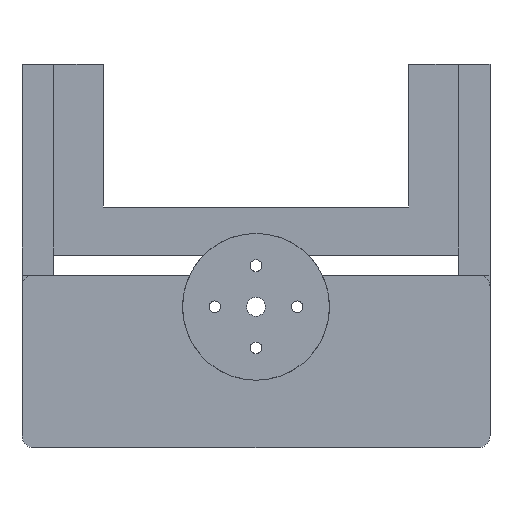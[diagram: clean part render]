
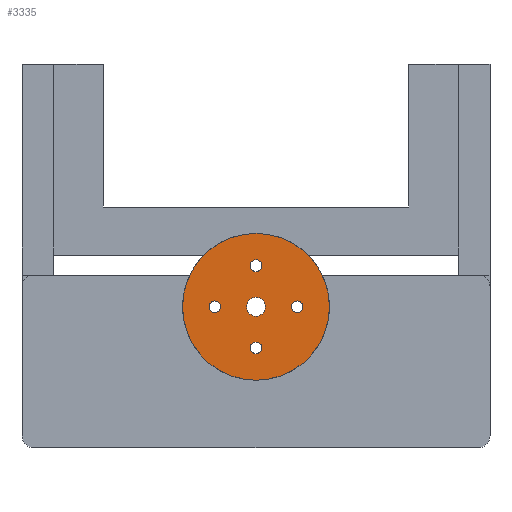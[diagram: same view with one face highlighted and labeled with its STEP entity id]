
A CAD part, front view. The second image highlights one B-rep face of the part: STEP entity #3335.
In plain terms, the highlighted planar face has unit normal (0, -1, 0).
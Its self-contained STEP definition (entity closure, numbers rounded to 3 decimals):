
#435 = CYLINDRICAL_SURFACE('',#436,12.5);
#436 = AXIS2_PLACEMENT_3D('',#437,#438,#439);
#437 = CARTESIAN_POINT('',(0.,0.,0.));
#438 = DIRECTION('',(0.,1.,0.));
#439 = DIRECTION('',(0.,-0.,1.));
#834 = CYLINDRICAL_SURFACE('',#835,1.);
#835 = AXIS2_PLACEMENT_3D('',#836,#837,#838);
#836 = CARTESIAN_POINT('',(-7.,-0.5,0.));
#837 = DIRECTION('',(0.,1.,0.));
#838 = DIRECTION('',(0.,-0.,1.));
#865 = CYLINDRICAL_SURFACE('',#866,1.);
#866 = AXIS2_PLACEMENT_3D('',#867,#868,#869);
#867 = CARTESIAN_POINT('',(0.,-0.5,-7.));
#868 = DIRECTION('',(0.,1.,0.));
#869 = DIRECTION('',(0.,-0.,1.));
#896 = CYLINDRICAL_SURFACE('',#897,1.6);
#897 = AXIS2_PLACEMENT_3D('',#898,#899,#900);
#898 = CARTESIAN_POINT('',(0.,-0.5,0.));
#899 = DIRECTION('',(0.,1.,0.));
#900 = DIRECTION('',(0.,-0.,1.));
#927 = CYLINDRICAL_SURFACE('',#928,1.);
#928 = AXIS2_PLACEMENT_3D('',#929,#930,#931);
#929 = CARTESIAN_POINT('',(7.,-0.5,0.));
#930 = DIRECTION('',(0.,1.,0.));
#931 = DIRECTION('',(0.,-0.,1.));
#2202 = VERTEX_POINT('',#2203);
#2203 = CARTESIAN_POINT('',(0.,0.,12.5));
#2274 = EDGE_CURVE('',#2202,#2202,#2275,.T.);
#2275 = SURFACE_CURVE('',#2276,(#2281,#2288),.PCURVE_S1.);
#2276 = CIRCLE('',#2277,12.5);
#2277 = AXIS2_PLACEMENT_3D('',#2278,#2279,#2280);
#2278 = CARTESIAN_POINT('',(0.,0.,0.));
#2279 = DIRECTION('',(0.,1.,0.));
#2280 = DIRECTION('',(0.,-0.,1.));
#2281 = PCURVE('',#435,#2282);
#2282 = DEFINITIONAL_REPRESENTATION('',(#2283),#2287);
#2283 = LINE('',#2284,#2285);
#2284 = CARTESIAN_POINT('',(0.,0.));
#2285 = VECTOR('',#2286,1.);
#2286 = DIRECTION('',(1.,0.));
#2287 = ( GEOMETRIC_REPRESENTATION_CONTEXT(2) 
PARAMETRIC_REPRESENTATION_CONTEXT() REPRESENTATION_CONTEXT('2D SPACE',''
  ) );
#2288 = PCURVE('',#2289,#2294);
#2289 = PLANE('',#2290);
#2290 = AXIS2_PLACEMENT_3D('',#2291,#2292,#2293);
#2291 = CARTESIAN_POINT('',(0.,0.,0.));
#2292 = DIRECTION('',(0.,1.,0.));
#2293 = DIRECTION('',(0.,-0.,1.));
#2294 = DEFINITIONAL_REPRESENTATION('',(#2295),#2299);
#2295 = CIRCLE('',#2296,12.5);
#2296 = AXIS2_PLACEMENT_2D('',#2297,#2298);
#2297 = CARTESIAN_POINT('',(0.,0.));
#2298 = DIRECTION('',(1.,0.));
#2299 = ( GEOMETRIC_REPRESENTATION_CONTEXT(2) 
PARAMETRIC_REPRESENTATION_CONTEXT() REPRESENTATION_CONTEXT('2D SPACE',''
  ) );
#2347 = VERTEX_POINT('',#2348);
#2348 = CARTESIAN_POINT('',(-7.,0.,1.));
#2369 = EDGE_CURVE('',#2347,#2347,#2370,.T.);
#2370 = SURFACE_CURVE('',#2371,(#2376,#2383),.PCURVE_S1.);
#2371 = CIRCLE('',#2372,1.);
#2372 = AXIS2_PLACEMENT_3D('',#2373,#2374,#2375);
#2373 = CARTESIAN_POINT('',(-7.,0.,0.));
#2374 = DIRECTION('',(0.,1.,0.));
#2375 = DIRECTION('',(0.,-0.,1.));
#2376 = PCURVE('',#834,#2377);
#2377 = DEFINITIONAL_REPRESENTATION('',(#2378),#2382);
#2378 = LINE('',#2379,#2380);
#2379 = CARTESIAN_POINT('',(0.,0.5));
#2380 = VECTOR('',#2381,1.);
#2381 = DIRECTION('',(1.,0.));
#2382 = ( GEOMETRIC_REPRESENTATION_CONTEXT(2) 
PARAMETRIC_REPRESENTATION_CONTEXT() REPRESENTATION_CONTEXT('2D SPACE',''
  ) );
#2383 = PCURVE('',#2289,#2384);
#2384 = DEFINITIONAL_REPRESENTATION('',(#2385),#2389);
#2385 = CIRCLE('',#2386,1.);
#2386 = AXIS2_PLACEMENT_2D('',#2387,#2388);
#2387 = CARTESIAN_POINT('',(0.,-7.));
#2388 = DIRECTION('',(1.,0.));
#2389 = ( GEOMETRIC_REPRESENTATION_CONTEXT(2) 
PARAMETRIC_REPRESENTATION_CONTEXT() REPRESENTATION_CONTEXT('2D SPACE',''
  ) );
#2397 = VERTEX_POINT('',#2398);
#2398 = CARTESIAN_POINT('',(0.,0.,-6.));
#2419 = EDGE_CURVE('',#2397,#2397,#2420,.T.);
#2420 = SURFACE_CURVE('',#2421,(#2426,#2433),.PCURVE_S1.);
#2421 = CIRCLE('',#2422,1.);
#2422 = AXIS2_PLACEMENT_3D('',#2423,#2424,#2425);
#2423 = CARTESIAN_POINT('',(0.,0.,-7.));
#2424 = DIRECTION('',(0.,1.,0.));
#2425 = DIRECTION('',(0.,-0.,1.));
#2426 = PCURVE('',#865,#2427);
#2427 = DEFINITIONAL_REPRESENTATION('',(#2428),#2432);
#2428 = LINE('',#2429,#2430);
#2429 = CARTESIAN_POINT('',(0.,0.5));
#2430 = VECTOR('',#2431,1.);
#2431 = DIRECTION('',(1.,0.));
#2432 = ( GEOMETRIC_REPRESENTATION_CONTEXT(2) 
PARAMETRIC_REPRESENTATION_CONTEXT() REPRESENTATION_CONTEXT('2D SPACE',''
  ) );
#2433 = PCURVE('',#2289,#2434);
#2434 = DEFINITIONAL_REPRESENTATION('',(#2435),#2439);
#2435 = CIRCLE('',#2436,1.);
#2436 = AXIS2_PLACEMENT_2D('',#2437,#2438);
#2437 = CARTESIAN_POINT('',(-7.,0.));
#2438 = DIRECTION('',(1.,0.));
#2439 = ( GEOMETRIC_REPRESENTATION_CONTEXT(2) 
PARAMETRIC_REPRESENTATION_CONTEXT() REPRESENTATION_CONTEXT('2D SPACE',''
  ) );
#2447 = VERTEX_POINT('',#2448);
#2448 = CARTESIAN_POINT('',(0.,0.,1.6));
#2469 = EDGE_CURVE('',#2447,#2447,#2470,.T.);
#2470 = SURFACE_CURVE('',#2471,(#2476,#2483),.PCURVE_S1.);
#2471 = CIRCLE('',#2472,1.6);
#2472 = AXIS2_PLACEMENT_3D('',#2473,#2474,#2475);
#2473 = CARTESIAN_POINT('',(0.,0.,0.));
#2474 = DIRECTION('',(0.,1.,0.));
#2475 = DIRECTION('',(0.,-0.,1.));
#2476 = PCURVE('',#896,#2477);
#2477 = DEFINITIONAL_REPRESENTATION('',(#2478),#2482);
#2478 = LINE('',#2479,#2480);
#2479 = CARTESIAN_POINT('',(0.,0.5));
#2480 = VECTOR('',#2481,1.);
#2481 = DIRECTION('',(1.,0.));
#2482 = ( GEOMETRIC_REPRESENTATION_CONTEXT(2) 
PARAMETRIC_REPRESENTATION_CONTEXT() REPRESENTATION_CONTEXT('2D SPACE',''
  ) );
#2483 = PCURVE('',#2289,#2484);
#2484 = DEFINITIONAL_REPRESENTATION('',(#2485),#2489);
#2485 = CIRCLE('',#2486,1.6);
#2486 = AXIS2_PLACEMENT_2D('',#2487,#2488);
#2487 = CARTESIAN_POINT('',(0.,0.));
#2488 = DIRECTION('',(1.,0.));
#2489 = ( GEOMETRIC_REPRESENTATION_CONTEXT(2) 
PARAMETRIC_REPRESENTATION_CONTEXT() REPRESENTATION_CONTEXT('2D SPACE',''
  ) );
#2497 = VERTEX_POINT('',#2498);
#2498 = CARTESIAN_POINT('',(7.,0.,1.));
#2519 = EDGE_CURVE('',#2497,#2497,#2520,.T.);
#2520 = SURFACE_CURVE('',#2521,(#2526,#2533),.PCURVE_S1.);
#2521 = CIRCLE('',#2522,1.);
#2522 = AXIS2_PLACEMENT_3D('',#2523,#2524,#2525);
#2523 = CARTESIAN_POINT('',(7.,0.,0.));
#2524 = DIRECTION('',(0.,1.,0.));
#2525 = DIRECTION('',(0.,-0.,1.));
#2526 = PCURVE('',#927,#2527);
#2527 = DEFINITIONAL_REPRESENTATION('',(#2528),#2532);
#2528 = LINE('',#2529,#2530);
#2529 = CARTESIAN_POINT('',(0.,0.5));
#2530 = VECTOR('',#2531,1.);
#2531 = DIRECTION('',(1.,0.));
#2532 = ( GEOMETRIC_REPRESENTATION_CONTEXT(2) 
PARAMETRIC_REPRESENTATION_CONTEXT() REPRESENTATION_CONTEXT('2D SPACE',''
  ) );
#2533 = PCURVE('',#2289,#2534);
#2534 = DEFINITIONAL_REPRESENTATION('',(#2535),#2539);
#2535 = CIRCLE('',#2536,1.);
#2536 = AXIS2_PLACEMENT_2D('',#2537,#2538);
#2537 = CARTESIAN_POINT('',(0.,7.));
#2538 = DIRECTION('',(1.,0.));
#2539 = ( GEOMETRIC_REPRESENTATION_CONTEXT(2) 
PARAMETRIC_REPRESENTATION_CONTEXT() REPRESENTATION_CONTEXT('2D SPACE',''
  ) );
#3297 = CYLINDRICAL_SURFACE('',#3298,1.);
#3298 = AXIS2_PLACEMENT_3D('',#3299,#3300,#3301);
#3299 = CARTESIAN_POINT('',(0.,-0.5,7.));
#3300 = DIRECTION('',(0.,1.,0.));
#3301 = DIRECTION('',(0.,-0.,1.));
#3335 = ADVANCED_FACE('',(#3336,#3339,#3342,#3345,#3348,#3374),#2289,.F.
  );
#3336 = FACE_BOUND('',#3337,.F.);
#3337 = EDGE_LOOP('',(#3338));
#3338 = ORIENTED_EDGE('',*,*,#2274,.T.);
#3339 = FACE_BOUND('',#3340,.F.);
#3340 = EDGE_LOOP('',(#3341));
#3341 = ORIENTED_EDGE('',*,*,#2369,.F.);
#3342 = FACE_BOUND('',#3343,.F.);
#3343 = EDGE_LOOP('',(#3344));
#3344 = ORIENTED_EDGE('',*,*,#2419,.F.);
#3345 = FACE_BOUND('',#3346,.F.);
#3346 = EDGE_LOOP('',(#3347));
#3347 = ORIENTED_EDGE('',*,*,#2469,.F.);
#3348 = FACE_BOUND('',#3349,.F.);
#3349 = EDGE_LOOP('',(#3350));
#3350 = ORIENTED_EDGE('',*,*,#3351,.F.);
#3351 = EDGE_CURVE('',#3352,#3352,#3354,.T.);
#3352 = VERTEX_POINT('',#3353);
#3353 = CARTESIAN_POINT('',(0.,0.,8.));
#3354 = SURFACE_CURVE('',#3355,(#3360,#3367),.PCURVE_S1.);
#3355 = CIRCLE('',#3356,1.);
#3356 = AXIS2_PLACEMENT_3D('',#3357,#3358,#3359);
#3357 = CARTESIAN_POINT('',(0.,0.,7.));
#3358 = DIRECTION('',(0.,1.,0.));
#3359 = DIRECTION('',(0.,-0.,1.));
#3360 = PCURVE('',#2289,#3361);
#3361 = DEFINITIONAL_REPRESENTATION('',(#3362),#3366);
#3362 = CIRCLE('',#3363,1.);
#3363 = AXIS2_PLACEMENT_2D('',#3364,#3365);
#3364 = CARTESIAN_POINT('',(7.,0.));
#3365 = DIRECTION('',(1.,0.));
#3366 = ( GEOMETRIC_REPRESENTATION_CONTEXT(2) 
PARAMETRIC_REPRESENTATION_CONTEXT() REPRESENTATION_CONTEXT('2D SPACE',''
  ) );
#3367 = PCURVE('',#3297,#3368);
#3368 = DEFINITIONAL_REPRESENTATION('',(#3369),#3373);
#3369 = LINE('',#3370,#3371);
#3370 = CARTESIAN_POINT('',(0.,0.5));
#3371 = VECTOR('',#3372,1.);
#3372 = DIRECTION('',(1.,0.));
#3373 = ( GEOMETRIC_REPRESENTATION_CONTEXT(2) 
PARAMETRIC_REPRESENTATION_CONTEXT() REPRESENTATION_CONTEXT('2D SPACE',''
  ) );
#3374 = FACE_BOUND('',#3375,.F.);
#3375 = EDGE_LOOP('',(#3376));
#3376 = ORIENTED_EDGE('',*,*,#2519,.F.);
